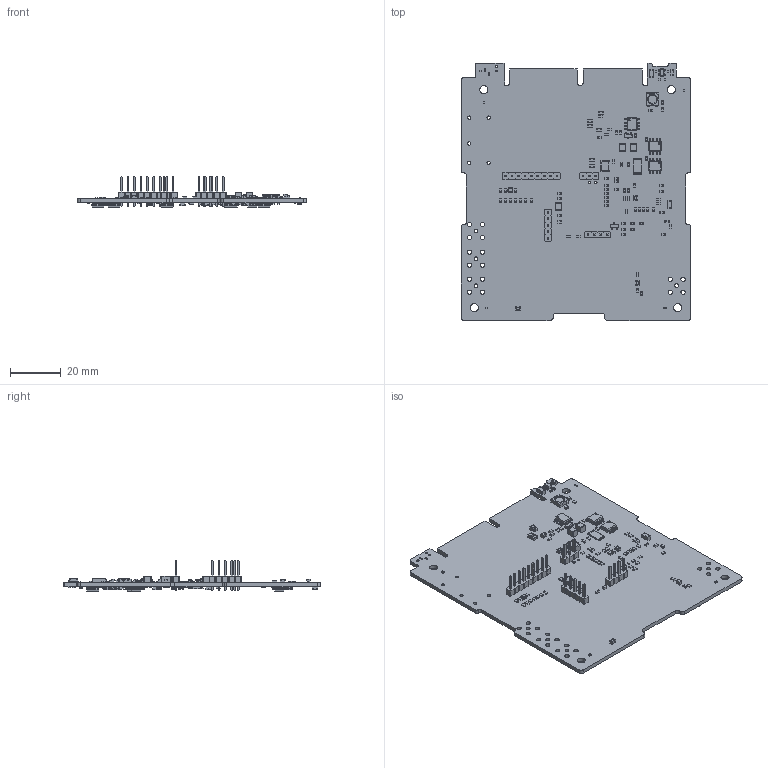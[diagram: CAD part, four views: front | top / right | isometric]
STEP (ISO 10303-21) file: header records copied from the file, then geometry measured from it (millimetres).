
FILE_DESCRIPTION(('KiCad electronic assembly'),'2;1');
FILE_NAME('mainboard.step','2021-11-19T14:47:28',('An Author'),( 'A Company'),'Open CASCADE STEP processor 6.9', 'KiCad to STEP converter','Unknown');
FILE_SCHEMA(('AUTOMOTIVE_DESIGN { 1 0 10303 214 1 1 1 1 }'));
Length unit declared in the file: millimetre
Products named in the file (48): Open CASCADE STEP translator 6.9 1; SOT-323_SC-70; SOLID; L_1210_3225Metric; C_0805_2012Metric; C_1206_3216Metric; C_1210_3225Metric; R_0603_1608Metric; C_0603_1608Metric; R_0402_1005Metric; SOIC-8_3.9x4.9mm_P1.27mm; SOT-23; C_0402_1005Metric; SOT-23-5; PinHeader_1x04_P2.54mm_Vertical; SOT-363_SC-70-6; PinHeader_1x09_P2.54mm_Vertical; LED_0603_1608Metric; L_Wuerth_MAPI-2510; PinHeader_1x03_P2.54mm_Vertical; QFN-24-1EP_4x4mm_P0.5mm_EP2.6x2.6mm; L_1812_4532Metric; LED_WS2812B_PLCC4_5.0x5.0mm_P3.2mm; PinHeader_1x05_P2.54mm_Vertical; R_2512_6332Metric; COMPOUND
Assembly tree (231 placements, depth 3):
  Open CASCADE STEP translator 6.9 1
    SOT-323_SC-70
      SOLID
    L_1210_3225Metric
      SOLID
    C_0805_2012Metric  x15
      SOLID
    C_1206_3216Metric  x2
      SOLID
    C_1210_3225Metric  x2
      SOLID
    R_0603_1608Metric  x101
      SOLID
    C_0603_1608Metric  x28
      SOLID
    R_0402_1005Metric  x12
      SOLID
    SOIC-8_3.9x4.9mm_P1.27mm  x10
      SOLID
    SOT-23  x7
      SOLID
    C_0402_1005Metric  x10
      SOLID
    SOT-23-5
      SOLID
    PinHeader_1x04_P2.54mm_Vertical
      SOLID
    SOT-363_SC-70-6  x7
      SOLID
    PinHeader_1x09_P2.54mm_Vertical
      SOLID
    LED_0603_1608Metric
      SOLID
    L_Wuerth_MAPI-2510
      SOLID
    PinHeader_1x03_P2.54mm_Vertical
      SOLID
    QFN-24-1EP_4x4mm_P0.5mm_EP2.6x2.6mm
      SOLID
    L_1812_4532Metric
      SOLID
    LED_WS2812B_PLCC4_5.0x5.0mm_P3.2mm
      SOLID
    PinHeader_1x05_P2.54mm_Vertical
      SOLID
    R_2512_6332Metric
      SOLID
    COMPOUND
Bounding box: 90.17 x 101.14 x 11.96 mm (x, y, z)
Volume: 14690.8 mm3; surface area: 21851 mm2
Topology: 208 solids, 208 shells, 8669 faces, 22235 edges, 14148 vertices
Faces by surface type: plane 5505, cylinder 2384, bspline 775, sphere 4, cone 1
Full cylindrical faces by diameter (mm): 0.5 x1, 0.6 x10, 0.7 x2, 1 x23, 1.295 x5, 1.5 x4, 1.7 x16, 3.175 x4, 3.333 x1
Entity records: 126201 total; most frequent: CARTESIAN_POINT 22449, DIRECTION 17014, LINE 11665, VECTOR 11665, ORIENTED_EDGE 9008, PCURVE 9008, DEFINITIONAL_REPRESENTATION 9008, EDGE_CURVE 4504
